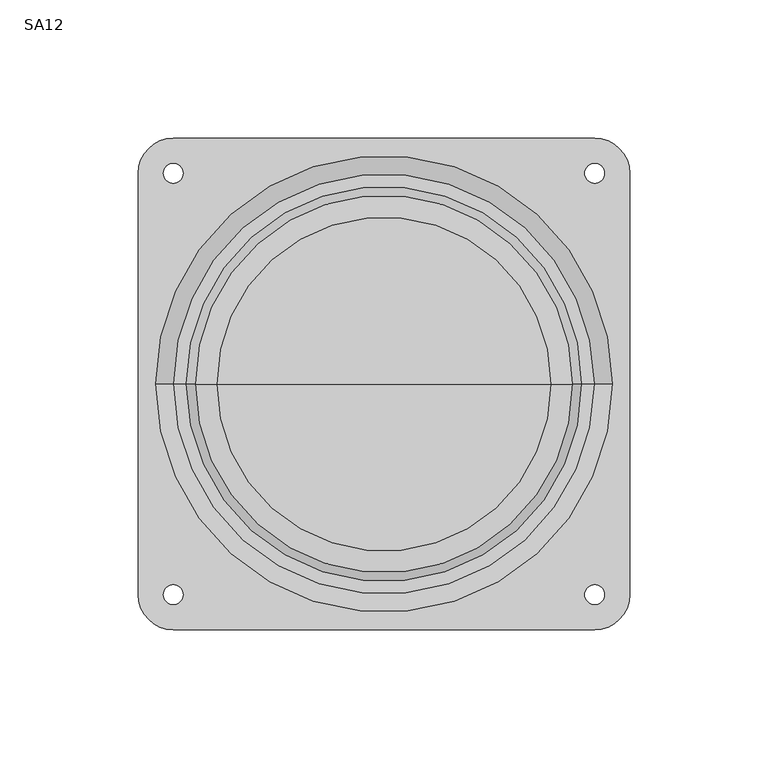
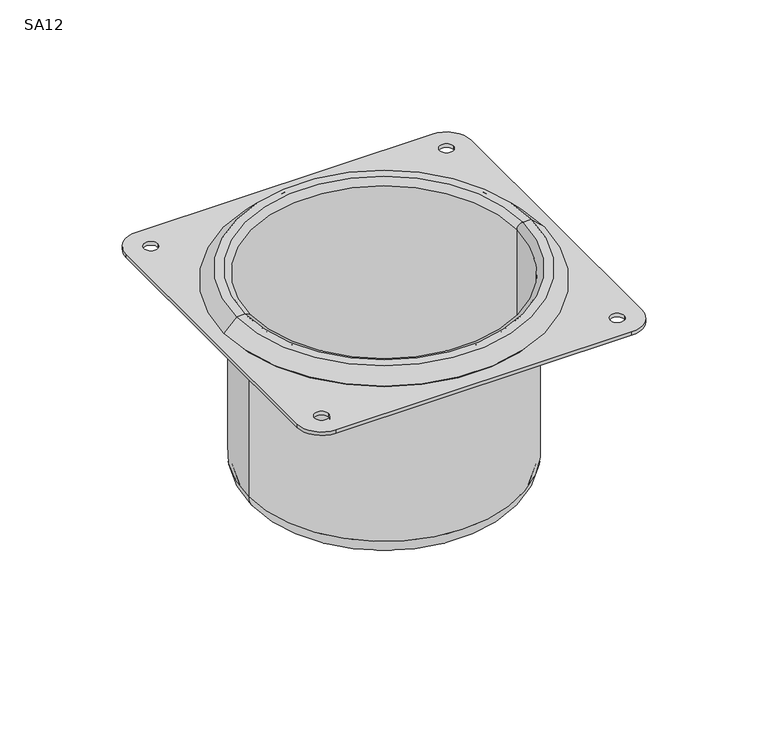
"""IFC4 building model written with IfcOpenShell, lengths in millimetres: proxy geometry, Security_Accessories-Bradley-SA12 : SA12."""

import ifcopenshell
import ifcopenshell.guid

model = None  # the IFC model being written
_history = None  # IfcOwnerHistory: only IFC2X3 demands one
_inside = {}  # id of a spatial element -> (the spatial element, [elements in it])
_under = {}  # id of a project, library or spatial element -> (it, [spatial elements below it])
_declared = {}  # id of a project -> (the project, [libraries it declares])
_typed = {}  # id of a type object -> (the type object, [elements of that type])
_made_of = {}  # id of a material, layer set ... -> (it, [elements and type objects made of it])


def new_model(schema):
    """Start an empty IFC model of exactly this schema.

    Asked for "IFC4X3", IfcOpenShell would pick the latest addendum, in which some entities
    have other attributes; the version numbers below select the first issue.
    IFC2X3 requires an IfcOwnerHistory on every rooted entity: one is made here for all.
    """
    global model, _history
    if schema == "IFC4X3":
        model = ifcopenshell.file(schema_version=(4, 3, 0, 0))
    else:
        model = ifcopenshell.file(schema=schema)
    _inside.clear()
    _under.clear()
    _declared.clear()
    _typed.clear()
    _made_of.clear()
    _history = None
    if model.schema == "IFC2X3":
        org = make("IfcOrganization", Name="unknown")
        user = make(
            "IfcPersonAndOrganization",
            ThePerson=make("IfcPerson", FamilyName="unknown"),
            TheOrganization=org,
        )
        app = make(
            "IfcApplication",
            ApplicationDeveloper=org,
            Version="unknown",
            ApplicationFullName="unknown",
            ApplicationIdentifier="unknown",
        )
        _history = make(
            "IfcOwnerHistory",
            OwningUser=user,
            OwningApplication=app,
            ChangeAction="ADDED",
            CreationDate=0,
        )
    return model


def make(cls, **values):
    """One entity of the class cls with the attributes given. An attribute that is None is left unset."""
    return model.create_entity(
        cls, **{name: value for name, value in values.items() if value is not None}
    )


def rooted(cls, **values):
    """An entity with a GlobalId (a new one), such as an element, a storey or a relation."""
    return make(cls, GlobalId=ifcopenshell.guid.new(), OwnerHistory=_history, **values)


def si_unit(unit_type, name, prefix=None):
    """IfcSIUnit, for example si_unit("LENGTHUNIT", "METRE", prefix="MILLI")."""
    return make("IfcSIUnit", UnitType=unit_type, Prefix=prefix, Name=name)


def assignment(units):
    """IfcUnitAssignment: the units of a project."""
    return None if units is None else make("IfcUnitAssignment", Units=units)


def point(xyz):
    """IfcCartesianPoint."""
    return None if xyz is None else make("IfcCartesianPoint", Coordinates=xyz)


def direction(xyz):
    """IfcDirection."""
    return None if xyz is None else make("IfcDirection", DirectionRatios=xyz)


def frame(location, z_axis=None, x_axis=None):
    """IfcAxis2Placement3D, a coordinate frame: its origin and axes. An axis left out is left unset."""
    return make(
        "IfcAxis2Placement3D",
        Location=point(location),
        Axis=direction(z_axis),
        RefDirection=direction(x_axis),
    )


def frame_2d(location, x_axis=None):
    """IfcAxis2Placement2D, a coordinate frame in the plane: its origin and x axis."""
    return make(
        "IfcAxis2Placement2D", Location=point(location), RefDirection=direction(x_axis)
    )


def origin():
    """The frame at (0, 0, 0) with its axes left unset."""
    return frame((0.0, 0.0, 0.0))


def origin_with_axes():
    """The frame at (0, 0, 0) with the z axis (0, 0, 1) and the x axis (1, 0, 0) written out."""
    return frame((0.0, 0.0, 0.0), z_axis=(0.0, 0.0, 1.0), x_axis=(1.0, 0.0, 0.0))


def origin_2d():
    """The frame at (0, 0) in the plane with its x axis left unset."""
    return frame_2d((0.0, 0.0))


def place(relative_to, where):
    """IfcLocalPlacement: puts the frame where relative to a parent placement (None: the world)."""
    return make(
        "IfcLocalPlacement", PlacementRelTo=relative_to, RelativePlacement=where
    )


def context(
    kind, dimensions, precision=None, world=None, true_north=None, identifier=None
):
    """IfcGeometricRepresentationContext, for example the 3D "Model" context."""
    return make(
        "IfcGeometricRepresentationContext",
        ContextIdentifier=identifier,
        ContextType=kind,
        CoordinateSpaceDimension=dimensions,
        Precision=precision,
        WorldCoordinateSystem=world,
        TrueNorth=true_north,
    )


def project(units=None, contexts=None):
    """IfcProject with its units and contexts."""
    return rooted(
        "IfcProject",
        Name="project",
        RepresentationContexts=contexts,
        UnitsInContext=assignment(units),
    )


def spatial(cls, under=None, at=None, **own):
    """A site, building, storey or space (cls), placed at a placement, below another one or the project."""
    s = rooted(cls, ObjectPlacement=at, **own)
    if under is not None:
        _under.setdefault(under.id(), (under, []))[1].append(s)
    return s


def polyline(points):
    """IfcPolyline through the points."""
    return make("IfcPolyline", Points=[point(p) for p in points])


def circle_curve(where, radius):
    """IfcCircle in the frame where."""
    return make("IfcCircle", Position=where, Radius=radius)


def ellipse_curve(where, semi_axis1, semi_axis2):
    """IfcEllipse in the frame where."""
    return make(
        "IfcEllipse", Position=where, SemiAxis1=semi_axis1, SemiAxis2=semi_axis2
    )


def trimmed(basis, trim1, trim2, sense, master):
    """IfcTrimmedCurve: the piece of a basis curve between two trims."""
    return make(
        "IfcTrimmedCurve",
        BasisCurve=basis,
        Trim1=trim1,
        Trim2=trim2,
        SenseAgreement=sense,
        MasterRepresentation=master,
    )


def segment(curve, same_sense, transition):
    """IfcCompositeCurveSegment."""
    return make(
        "IfcCompositeCurveSegment",
        Transition=transition,
        SameSense=same_sense,
        ParentCurve=curve,
    )


def composite_curve(segments, self_intersect=None):
    """IfcCompositeCurve: segments joined end to end."""
    return make("IfcCompositeCurve", Segments=segments, SelfIntersect=self_intersect)


def outline(outer, holes=None, kind="AREA"):
    """IfcArbitraryClosedProfileDef: a profile drawn as a closed curve; with holes, ...WithVoids."""
    if holes is None:
        return make("IfcArbitraryClosedProfileDef", ProfileType=kind, OuterCurve=outer)
    return make(
        "IfcArbitraryProfileDefWithVoids",
        ProfileType=kind,
        OuterCurve=outer,
        InnerCurves=holes,
    )


def extrude(swept, where, along, depth):
    """IfcExtrudedAreaSolid: the profile swept, set in the frame where, extruded along a direction by depth."""
    return make(
        "IfcExtrudedAreaSolid",
        SweptArea=swept,
        Position=where,
        ExtrudedDirection=direction(along),
        Depth=depth,
    )


def shape(context_of_items, identifier, shape_type, items):
    """IfcShapeRepresentation: the items that make up one representation, for example the "Body"."""
    return make(
        "IfcShapeRepresentation",
        ContextOfItems=context_of_items,
        RepresentationIdentifier=identifier,
        RepresentationType=shape_type,
        Items=items,
    )


def source(mapping_origin, context_of_items, identifier, shape_type, items):
    """IfcRepresentationMap: a shape defined once, which mapped items show again and again."""
    return make(
        "IfcRepresentationMap",
        MappingOrigin=mapping_origin,
        MappedRepresentation=shape(context_of_items, identifier, shape_type, items),
    )


def transform(
    local_origin,
    x_axis=None,
    y_axis=None,
    z_axis=None,
    scale=None,
    scale2=None,
    scale3=None,
    uniform=True,
):
    """IfcCartesianTransformationOperator3D, or its non-uniform kind. x_axis, y_axis, z_axis: its Axis1, 2, 3."""
    if uniform:
        return make(
            "IfcCartesianTransformationOperator3D",
            Axis1=direction(x_axis),
            Axis2=direction(y_axis),
            LocalOrigin=point(local_origin),
            Scale=scale,
            Axis3=direction(z_axis),
        )
    return make(
        "IfcCartesianTransformationOperator3DnonUniform",
        Axis1=direction(x_axis),
        Axis2=direction(y_axis),
        LocalOrigin=point(local_origin),
        Scale=scale,
        Axis3=direction(z_axis),
        Scale2=scale2,
        Scale3=scale3,
    )


def mapped(mapping_source, mapping_target):
    """IfcMappedItem: shows the shape of a source again, moved by a transform."""
    return make(
        "IfcMappedItem", MappingSource=mapping_source, MappingTarget=mapping_target
    )


def made_of(thing, what):
    """Note that an element or type object is made of a material, layer set ...; save() writes the relation."""
    if what is not None:
        _made_of.setdefault(what.id(), (what, []))[1].append(thing)
    return thing


def element(
    cls,
    number,
    at=None,
    inside=None,
    cuts=None,
    type_object=None,
    material=None,
    context=None,
    identifier="Body",
    shape_type=None,
    held_by="IfcProductDefinitionShape",
    body=None,
    shapes=None,
    **own,
):
    """One element of the class cls, such as IfcWall. Its Tag is "e" and its number.

    at: its placement. inside: the storey or other place that contains it. cuts: it is an
    opening in that element (IfcRelVoidsElement). A single representation is given by context,
    identifier, shape_type and body (its items); several are given by shapes. held_by: the class
    of the entity that holds the representations. save() writes the other relations.
    """
    e = rooted(cls, Tag="e%d" % number, ObjectPlacement=at, **own)
    if body is not None:
        shapes = [shape(context, identifier, shape_type, body)]
    if shapes is not None:
        e.Representation = make(held_by, Representations=shapes)
    if inside is not None:
        _inside.setdefault(inside.id(), (inside, []))[1].append(e)
    if cuts is not None:
        rooted(
            "IfcRelVoidsElement", RelatingBuildingElement=cuts, RelatedOpeningElement=e
        )
    if type_object is not None:
        _typed.setdefault(type_object.id(), (type_object, []))[1].append(e)
    return made_of(e, material)


def aggregate(whole, parts):
    """IfcRelAggregates: a whole, such as a stair, and the parts it consists of."""
    return rooted("IfcRelAggregates", RelatingObject=whole, RelatedObjects=parts)


def save(model, path):
    """Write the relations noted so far, then the file.

    IfcRelAggregates (storeys below a building ...), IfcRelContainedInSpatialStructure (elements
    in a storey), IfcRelDefinesByType, IfcRelAssociatesMaterial and IfcRelDeclares: one each for
    every whole, place, type object, material and project.
    """
    for whole, parts in _under.values():
        aggregate(whole, parts)
    for where, things in _inside.values():
        rooted(
            "IfcRelContainedInSpatialStructure",
            RelatedElements=things,
            RelatingStructure=where,
        )
    for kind, things in _typed.values():
        rooted("IfcRelDefinesByType", RelatedObjects=things, RelatingType=kind)
    for what, things in _made_of.values():
        rooted("IfcRelAssociatesMaterial", RelatedObjects=things, RelatingMaterial=what)
    for by, libraries in _declared.values():
        rooted("IfcRelDeclares", RelatingContext=by, RelatedDefinitions=libraries)
    model.write(path)


def plane_surface(at):
    """IfcPlane: the flat surface through the origin of the frame at, square to its z axis."""
    return make("IfcPlane", Position=at)


def cylinder_surface(at, radius):
    """IfcCylindricalSurface: all points at the distance radius from the z axis of the frame at."""
    return make("IfcCylindricalSurface", Position=at, Radius=radius)


def revolved_surface(curve, axis_point, axis_direction):
    """IfcSurfaceOfRevolution: the curve turned about the line through axis_point along axis_direction."""
    return make(
        "IfcSurfaceOfRevolution",
        SweptCurve=make("IfcArbitraryOpenProfileDef", ProfileType="CURVE", Curve=curve),
        AxisPosition=make("IfcAxis1Placement", Location=point(axis_point), Axis=direction(axis_direction)),
    )


def advanced_brep(points, edges, surfaces, faces):
    """IfcAdvancedBrep: a solid bounded by faces that lie on surfaces and meet in shared edges.

    An edge is (start, end): straight between two places in points (the first is 0);
    or (start, end, curve); or (start, end, curve, False) where it runs against its curve.
    A face is (place in surfaces, loops), or (place, loops, False) where it looks against
    its surface's normal. A loop lists edges by number (the first is 1), with a minus sign
    where the edge is run from its end to its start. The first loop is the outer one.
    """
    corners = [point(p) for p in points]
    vertices = [make("IfcVertexPoint", VertexGeometry=c) for c in corners]
    made = []
    for start, end, *more in edges:
        made.append(
            make(
                "IfcEdgeCurve",
                EdgeStart=vertices[start],
                EdgeEnd=vertices[end],
                EdgeGeometry=more[0] if more else make("IfcPolyline", Points=[corners[start], corners[end]]),
                SameSense=more[1] if len(more) > 1 else True,
            )
        )
    hull = []
    for where, loops, *sense in faces:
        bounds = []
        for j, loop in enumerate(loops):
            ring = [make("IfcOrientedEdge", EdgeElement=made[abs(k) - 1], Orientation=k > 0) for k in loop]
            bounds.append(
                make(
                    "IfcFaceOuterBound" if j == 0 else "IfcFaceBound",
                    Bound=make("IfcEdgeLoop", EdgeList=ring),
                    Orientation=True,
                )
            )
        hull.append(make("IfcAdvancedFace", Bounds=bounds, FaceSurface=surfaces[where], SameSense=sense[0] if sense else True))
    return make("IfcAdvancedBrep", Outer=make("IfcClosedShell", CfsFaces=hull))


def sa12_a1c1abd2(model_context):
    return source(origin(), model_context, "Body", "SolidModel", [
        extrude(outline(composite_curve([segment(trimmed(circle_curve(frame_2d((-76.2, 76.2)), 12.7), [point((-88.9, 76.2))], [point((-76.2, 88.9))], False, "CARTESIAN"), True, "CONTINUOUS"), segment(polyline([(-76.2, 88.9), (76.2, 88.9)]), True, "CONTINUOUS"), segment(trimmed(circle_curve(frame_2d((76.2, 76.2)), 12.7), [point((76.2, 88.9))], [point((88.9, 76.2))], False, "CARTESIAN"), True, "CONTINUOUS"), segment(polyline([(88.9, 76.2), (88.9, -76.2)]), True, "CONTINUOUS"), segment(trimmed(circle_curve(frame_2d((76.2, -76.2)), 12.7), [point((88.9, -76.2))], [point((76.2, -88.9))], False, "CARTESIAN"), True, "CONTINUOUS"), segment(polyline([(76.2, -88.9), (-76.2, -88.9)]), True, "CONTINUOUS"), segment(trimmed(circle_curve(frame_2d((-76.2, -76.2)), 12.7), [point((-76.2, -88.9))], [point((-88.9, -76.2))], False, "CARTESIAN"), True, "CONTINUOUS"), segment(polyline([(-88.9, -76.2), (-88.9, 76.2)]), True, "CONTINUOUS")], self_intersect=False), holes=[composite_curve([segment(trimmed(circle_curve(frame_2d((-76.2, 76.2)), 3.571875), [point((-79.771875, 76.2))], [point((-72.628125, 76.2))], True, "CARTESIAN"), True, "CONTINUOUS"), segment(trimmed(circle_curve(frame_2d((-76.2, 76.2)), 3.571875), [point((-72.628125, 76.2))], [point((-79.771875, 76.2))], True, "CARTESIAN"), True, "CONTINUOUS")], self_intersect=False), composite_curve([segment(trimmed(circle_curve(frame_2d((-76.2, -76.2)), 3.571875), [point((-79.771875, -76.2))], [point((-72.628125, -76.2))], True, "CARTESIAN"), True, "CONTINUOUS"), segment(trimmed(circle_curve(frame_2d((-76.2, -76.2)), 3.571875), [point((-72.628125, -76.2))], [point((-79.771875, -76.2))], True, "CARTESIAN"), True, "CONTINUOUS")], self_intersect=False), composite_curve([segment(trimmed(circle_curve(frame_2d((76.2, -76.2)), 3.571875), [point((72.628125, -76.2))], [point((79.771875, -76.2))], True, "CARTESIAN"), True, "CONTINUOUS"), segment(trimmed(circle_curve(frame_2d((76.2, -76.2)), 3.571875), [point((79.771875, -76.2))], [point((72.628125, -76.2))], True, "CARTESIAN"), True, "CONTINUOUS")], self_intersect=False), composite_curve([segment(trimmed(circle_curve(frame_2d((76.2, 76.2)), 3.571875), [point((72.628125, 76.2))], [point((79.771875, 76.2))], True, "CARTESIAN"), True, "CONTINUOUS"), segment(trimmed(circle_curve(frame_2d((76.2, 76.2)), 3.571875), [point((79.771875, 76.2))], [point((72.628125, 76.2))], True, "CARTESIAN"), True, "CONTINUOUS")], self_intersect=False), composite_curve([segment(trimmed(circle_curve(origin_2d(), 81.4723693), [point((-81.4723693, 0.0))], [point((81.4723693, 0.0))], True, "CARTESIAN"), True, "CONTINUOUS"), segment(trimmed(circle_curve(origin_2d(), 81.4723693), [point((81.4723693, 0.0))], [point((-81.4723693, 0.0))], True, "CARTESIAN"), True, "CONTINUOUS")], self_intersect=False)]), origin_with_axes(), (0.0, 0.0, 1.0), 1.905),
        advanced_brep(
        [(68.326, 0.0, 6.4135), (-68.326, 0.0, 6.4135), (-68.326, 0.0, -90.551), (68.326, 0.0, -90.551), (71.4375, 0.0, 9.525), (-71.4375, 0.0, 9.525), (76.0076307, 0.0, 9.525), (-76.0076307, 0.0, 9.525), (82.55, 0.0, 2.9826307), (-82.55, 0.0, 2.9826307), (81.4723693, 0.0, 1.905), (-81.4723693, 0.0, 1.905), (75.3763693, 0.0, 8.001), (-75.3763693, 0.0, 8.001), (71.4375, 0.0, 8.001), (-71.4375, 0.0, 8.001), (69.85, 0.0, 6.4135), (-69.85, 0.0, 6.4135), (69.85, 0.0, -90.551), (-69.85, 0.0, -90.551), (60.3885, 0.0, -100.0125), (-60.3885, 0.0, -100.0125), (0.0, 0.0, -100.0125), (60.3885, 0.0, -98.4885), (-60.3885, 0.0, -98.4885), (0.0, 0.0, -98.4885)],
        [
            (0, 1, circle_curve(frame((0.0, 0.0, 6.4135), z_axis=(0.0, 0.0, 1.0), x_axis=(-1.0, 0.0, 0.0)), 68.326)),
            (1, 2),
            (2, 3, circle_curve(frame((0.0, 0.0, -90.551), z_axis=(0.0, 0.0, -1.0), x_axis=(-1.0, 0.0, 0.0)), 68.326)),
            (3, 0),
            (1, 0, circle_curve(frame((0.0, 0.0, 6.4135), z_axis=(0.0, 0.0, 1.0), x_axis=(-1.0, 0.0, 0.0)), 68.326)),
            (3, 2, circle_curve(frame((0.0, 0.0, -90.551), z_axis=(0.0, 0.0, -1.0), x_axis=(-1.0, 0.0, 0.0)), 68.326)),
            (4, 5, circle_curve(frame((0.0, 0.0, 9.525), z_axis=(0.0, 0.0, 1.0), x_axis=(-1.0, 0.0, 0.0)), 71.4375)),
            (5, 1, circle_curve(frame((-71.4375, 0.0, 6.4135), z_axis=(0.0, 1.0, 0.0), x_axis=(1.0, 0.0, 0.0)), 3.1115)),
            (0, 4, circle_curve(frame((71.4375, 0.0, 6.4135), z_axis=(0.0, 1.0, 0.0), x_axis=(-1.0, 0.0, 0.0)), 3.1115)),
            (5, 4, circle_curve(frame((0.0, 0.0, 9.525), z_axis=(0.0, 0.0, 1.0), x_axis=(-1.0, 0.0, 0.0)), 71.4375)),
            (6, 7, circle_curve(frame((0.0, 0.0, 9.525), z_axis=(0.0, 0.0, 1.0), x_axis=(-1.0, 0.0, 0.0)), 76.0076307)),
            (7, 5),
            (4, 6),
            (7, 6, circle_curve(frame((0.0, 0.0, 9.525), z_axis=(0.0, 0.0, 1.0), x_axis=(-1.0, 0.0, 0.0)), 76.0076307)),
            (8, 9, circle_curve(frame((0.0, 0.0, 2.9826307), z_axis=(0.0, 0.0, 1.0), x_axis=(-1.0, 0.0, 0.0)), 82.55)),
            (9, 7),
            (6, 8),
            (9, 8, circle_curve(frame((0.0, 0.0, 2.9826307), z_axis=(0.0, 0.0, 1.0), x_axis=(-1.0, 0.0, 0.0)), 82.55)),
            (10, 11, circle_curve(frame((0.0, 0.0, 1.905), z_axis=(0.0, 0.0, 1.0), x_axis=(-1.0, 0.0, 0.0)), 81.4723693)),
            (11, 9),
            (8, 10),
            (11, 10, circle_curve(frame((0.0, 0.0, 1.905), z_axis=(0.0, 0.0, 1.0), x_axis=(-1.0, 0.0, 0.0)), 81.4723693)),
            (12, 13, circle_curve(frame((0.0, 0.0, 8.001), z_axis=(0.0, 0.0, 1.0), x_axis=(-1.0, 0.0, 0.0)), 75.3763693)),
            (13, 11),
            (10, 12),
            (13, 12, circle_curve(frame((0.0, 0.0, 8.001), z_axis=(0.0, 0.0, 1.0), x_axis=(-1.0, 0.0, 0.0)), 75.3763693)),
            (14, 15, circle_curve(frame((0.0, 0.0, 8.001), z_axis=(0.0, 0.0, 1.0), x_axis=(-1.0, 0.0, 0.0)), 71.4375)),
            (15, 13),
            (12, 14),
            (15, 14, circle_curve(frame((0.0, 0.0, 8.001), z_axis=(0.0, 0.0, 1.0), x_axis=(-1.0, 0.0, 0.0)), 71.4375)),
            (16, 17, circle_curve(frame((0.0, 0.0, 6.4135), z_axis=(0.0, 0.0, 1.0), x_axis=(-1.0, 0.0, 0.0)), 69.85)),
            (17, 15, circle_curve(frame((-71.4375, 0.0, 6.4135), z_axis=(0.0, -1.0, 0.0), x_axis=(1.0, 0.0, 0.0)), 1.5875)),
            (14, 16, circle_curve(frame((71.4375, 0.0, 6.4135), z_axis=(0.0, -1.0, 0.0), x_axis=(-1.0, 0.0, 0.0)), 1.5875)),
            (17, 16, circle_curve(frame((0.0, 0.0, 6.4135), z_axis=(0.0, 0.0, 1.0), x_axis=(-1.0, 0.0, 0.0)), 69.85)),
            (18, 19, circle_curve(frame((0.0, 0.0, -90.551), z_axis=(0.0, 0.0, 1.0), x_axis=(-1.0, 0.0, 0.0)), 69.85)),
            (19, 17),
            (16, 18),
            (19, 18, circle_curve(frame((0.0, 0.0, -90.551), z_axis=(0.0, 0.0, 1.0), x_axis=(-1.0, 0.0, 0.0)), 69.85)),
            (20, 21, circle_curve(frame((0.0, 0.0, -100.0125), z_axis=(0.0, 0.0, 1.0), x_axis=(-1.0, 0.0, 0.0)), 60.3885)),
            (21, 19, circle_curve(frame((-60.3885, 0.0, -90.551), z_axis=(0.0, 1.0, 0.0), x_axis=(1.0, 0.0, 0.0)), 9.4615)),
            (18, 20, circle_curve(frame((60.3885, 0.0, -90.551), z_axis=(0.0, 1.0, 0.0), x_axis=(-1.0, 0.0, 0.0)), 9.4615)),
            (21, 20, circle_curve(frame((0.0, 0.0, -100.0125), z_axis=(0.0, 0.0, 1.0), x_axis=(-1.0, 0.0, 0.0)), 60.3885)),
            (22, 21),
            (20, 22),
            (23, 24, circle_curve(frame((0.0, 0.0, -98.4885), z_axis=(0.0, 0.0, 1.0), x_axis=(-1.0, 0.0, 0.0)), 60.3885)),
            (24, 25),
            (25, 23),
            (24, 23, circle_curve(frame((0.0, 0.0, -98.4885), z_axis=(0.0, 0.0, 1.0), x_axis=(-1.0, 0.0, 0.0)), 60.3885)),
            (2, 24, circle_curve(frame((-60.3885, 0.0, -90.551), z_axis=(0.0, -1.0, 0.0), x_axis=(1.0, 0.0, 0.0)), 7.9375)),
            (23, 3, circle_curve(frame((60.3885, 0.0, -90.551), z_axis=(0.0, -1.0, 0.0), x_axis=(-1.0, 0.0, 0.0)), 7.9375)),
        ],
        [
            revolved_surface(polyline([(-68.326, 0.0, -90.551), (-68.326, 0.0, 6.413499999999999)]), (0.0, 0.0, -119.0625), (0.0, 0.0, -1.0)),
            revolved_surface(trimmed(ellipse_curve(frame((-71.4375, 0.0, 6.4135), z_axis=(0.0, -1.0, 0.0), x_axis=(1.0, 0.0, 0.0)), 3.1115, 3.1115), [point((-68.326, 0.0, 6.4135))], [point((-71.4375, 0.0, 9.525))], True, "CARTESIAN"), (0.0, 0.0, -119.0625), (0.0, 0.0, -1.0)),
            plane_surface(frame((0.0, 0.0, 9.525), z_axis=(0.0, 0.0, 1.0), x_axis=(-1.0, 0.0, 0.0))),
            revolved_surface(polyline([(-76.0076307, 0.0, 9.525), (-82.55, 0.0, 2.9826307)]), (0.0, 0.0, -119.0625), (0.0, 0.0, -1.0)),
            revolved_surface(polyline([(-82.55, 0.0, 2.9826307), (-81.4723693, 0.0, 1.905)]), (0.0, 0.0, -119.0625), (0.0, 0.0, -1.0)),
            revolved_surface(polyline([(-81.4723693, 0.0, 1.905), (-75.3763693, 0.0, 8.001)]), (0.0, 0.0, -119.0625), (0.0, 0.0, -1.0)),
            plane_surface(frame((0.0, 0.0, 8.001), z_axis=(0.0, 0.0, -1.0), x_axis=(-1.0, 0.0, 0.0))),
            revolved_surface(trimmed(ellipse_curve(frame((-71.4375, 0.0, 6.4135), z_axis=(0.0, 1.0, 0.0), x_axis=(1.0, 0.0, 0.0)), 1.5875, 1.5875), [point((-71.4375, 0.0, 8.001))], [point((-69.85, 0.0, 6.4135))], True, "CARTESIAN"), (0.0, 0.0, -119.0625), (0.0, 0.0, -1.0)),
            cylinder_surface(frame((0.0, 0.0, -119.0625), z_axis=(0.0, 0.0, -1.0), x_axis=(-1.0, 0.0, 0.0)), 69.85),
            revolved_surface(trimmed(ellipse_curve(frame((-60.3885, 0.0, -90.551), z_axis=(0.0, -1.0, 0.0), x_axis=(1.0, 0.0, 0.0)), 9.4615, 9.4615), [point((-69.85, 0.0, -90.551))], [point((-60.3885, 0.0, -100.0125))], True, "CARTESIAN"), (0.0, 0.0, -119.0625), (0.0, 0.0, -1.0)),
            plane_surface(frame((0.0, 0.0, -100.0125), z_axis=(0.0, 0.0, -1.0), x_axis=(-1.0, 0.0, 0.0))),
            plane_surface(frame((0.0, 0.0, -98.4885), z_axis=(0.0, 0.0, 1.0), x_axis=(-1.0, 0.0, 0.0))),
            revolved_surface(trimmed(ellipse_curve(frame((-60.3885, 0.0, -90.551), z_axis=(0.0, 1.0, 0.0), x_axis=(1.0, 0.0, 0.0)), 7.9375, 7.9375), [point((-60.3885, 0.0, -98.4885))], [point((-68.326, 0.0, -90.551))], True, "CARTESIAN"), (0.0, 0.0, -119.0625), (0.0, 0.0, -1.0)),
        ],
        [
            (0, [[1, 2, 3, 4]]),
            (0, [[5, -4, 6, -2]]),
            (1, [[7, 8, -1, 9]]),
            (1, [[10, -9, -5, -8]]),
            (2, [[11, 12, -7, 13]]),
            (2, [[14, -13, -10, -12]]),
            (3, [[15, 16, -11, 17]]),
            (3, [[18, -17, -14, -16]]),
            (4, [[19, 20, -15, 21]]),
            (4, [[22, -21, -18, -20]]),
            (5, [[23, 24, -19, 25]]),
            (5, [[26, -25, -22, -24]]),
            (6, [[27, 28, -23, 29]]),
            (6, [[30, -29, -26, -28]]),
            (7, [[31, 32, -27, 33]]),
            (7, [[34, -33, -30, -32]]),
            (8, [[35, 36, -31, 37]]),
            (8, [[38, -37, -34, -36]]),
            (9, [[39, 40, -35, 41]]),
            (9, [[42, -41, -38, -40]]),
            (10, [[43, -39, 44]]),
            (10, [[-44, -42, -43]]),
            (11, [[45, 46, 47]]),
            (11, [[48, -47, -46]]),
            (12, [[-3, 49, -45, 50]]),
            (12, [[-6, -50, -48, -49]]),
        ],
    ),
    ])


if __name__ == "__main__":
    model = new_model("IFC4")
    model_context = context("Model", 3, world=origin())
    ifc_project = project(units=[si_unit("LENGTHUNIT", "METRE", prefix="MILLI")], contexts=[model_context])
    site = spatial("IfcSite", under=ifc_project)
    building = spatial("IfcBuilding", under=site)
    placement = place(None, origin())
    sa12_shape = sa12_a1c1abd2(model_context)
    element("IfcBuildingElementProxy", 1, Name="Security_Accessories-Bradley-SA12 : SA12", ObjectType="Security_Accessories-Bradley-SA12 : SA12", at=placement, inside=building, context=model_context, shape_type="MappedRepresentation", body=[
        mapped(sa12_shape, transform((0.0, 0.0, 0.0), x_axis=(1.0, 0.0, 0.0), y_axis=(0.0, 1.0, 0.0), z_axis=(0.0, 0.0, 1.0))),
    ])
    save(model, "model.ifc")
